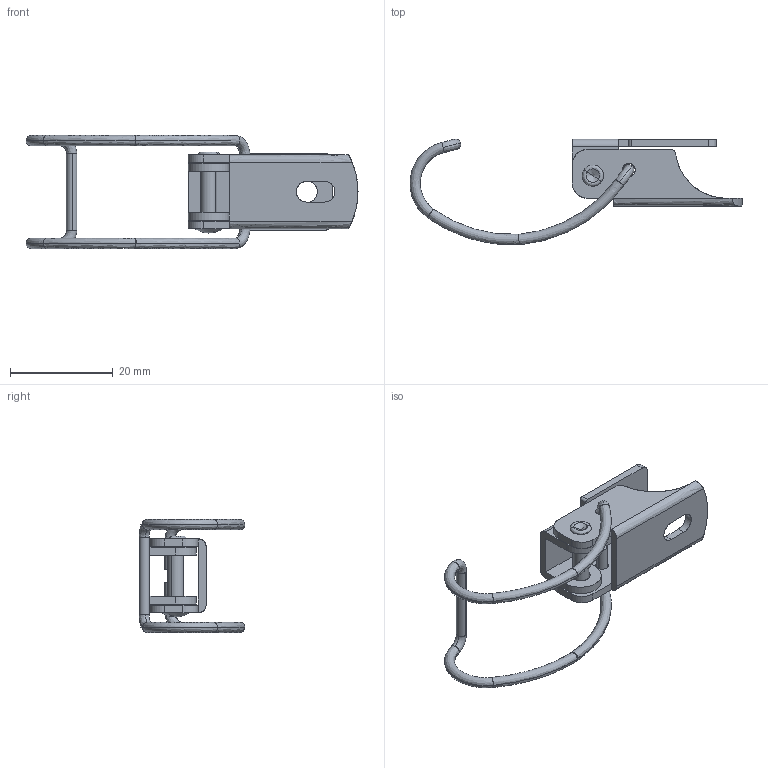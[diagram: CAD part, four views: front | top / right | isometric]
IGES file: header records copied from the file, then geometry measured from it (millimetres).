
Start section: SolidWorks IGES file using analytic representation for surfaces
Global section: file name: C:\Users\cbrechard\Desktop\GE 578 ZI.IGS; native system: SolidWorks 2017; preprocessor: SolidWorks 2017; author: cbrechard; date: 221026.094725; units: millimetre
Bounding box: 64.54 x 20.54 x 22 mm (x, y, z)
Surface area: 4062.1 mm2 (no closed solid volume)
Topology: 0 solids, 0 shells, 111 faces, 1646 edges, 1643 vertices
Faces by surface type: bspline 62, revolution 49
